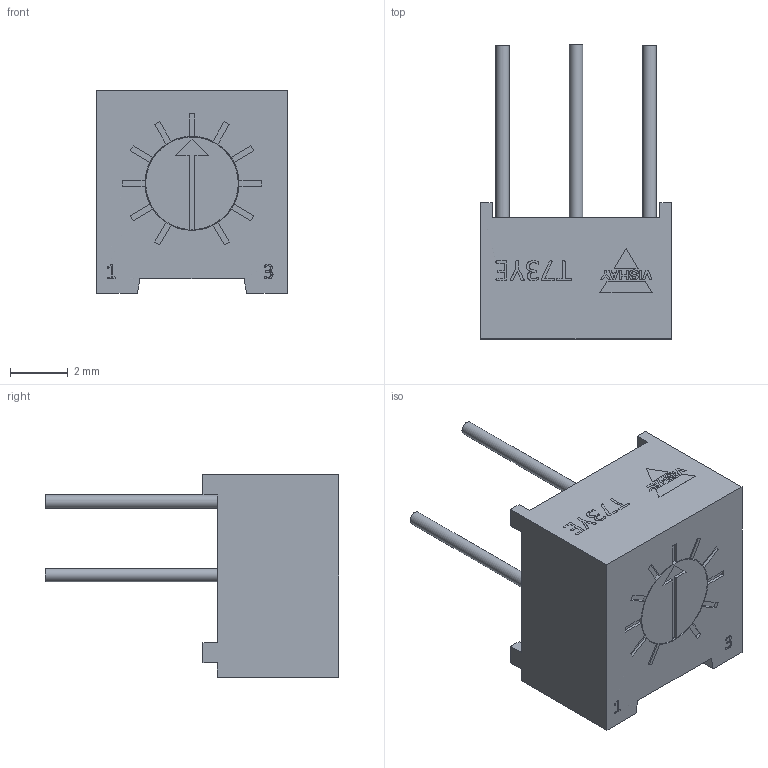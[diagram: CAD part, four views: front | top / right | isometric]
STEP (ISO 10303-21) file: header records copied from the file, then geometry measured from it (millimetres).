
FILE_DESCRIPTION(/* description */ ('Unknown'),/* implementation_level */ '2;1');
FILE_NAME(/* name */ 'T73YE-VISHAY',/* time_stamp */ '2018-05-28T13:33:38+02:00',/* author */ ('Unknown'),/* organization */ ('Unknown'),/* preprocessor_version */ 'ST-DEVELOPER v16.7',/* originating_system */ 'DEX',/* authorisation */ $);
FILE_SCHEMA (('AUTOMOTIVE_DESIGN {1 0 10303 214 3 1 1}'));
Length unit declared in the file: millimetre
Products named in the file (1): T73YE-VISHAY
Bounding box: 6.6 x 10.16 x 7 mm (x, y, z)
Volume: 189.2 mm3; surface area: 269.6 mm2
Topology: 1 solids, 1 shells, 191 faces, 492 edges, 324 vertices
Faces by surface type: plane 161, bspline 25, cylinder 5
Full cylindrical faces by diameter (mm): 0.46 x3, 3.2 x1, 3.25 x1
Entity records: 7890 total; most frequent: CARTESIAN_POINT 2039, ORIENTED_EDGE 970, DIRECTION 806, EDGE_CURVE 485, LINE 396, VECTOR 396, VERTEX_POINT 322, EDGE_LOOP 217
